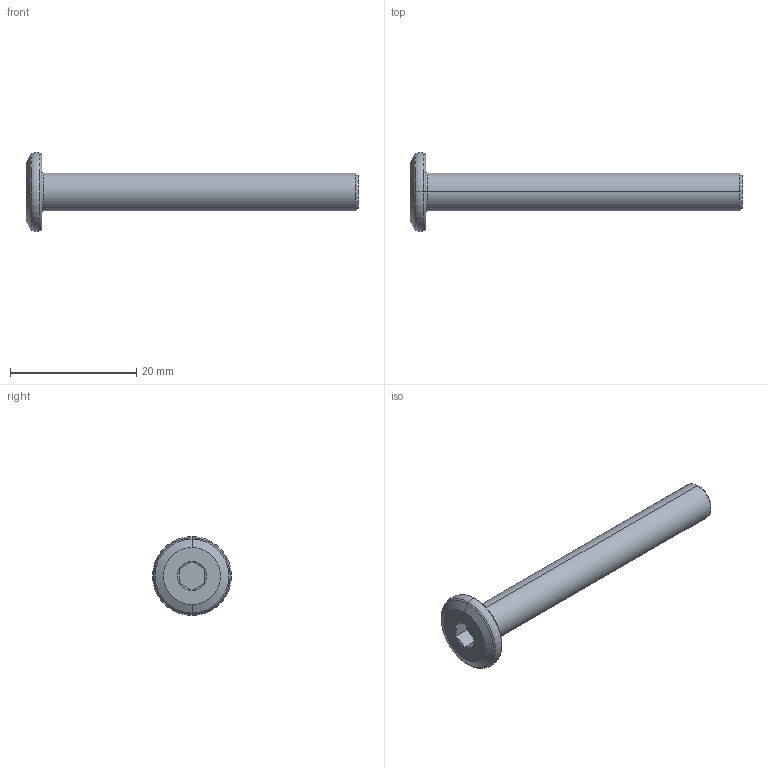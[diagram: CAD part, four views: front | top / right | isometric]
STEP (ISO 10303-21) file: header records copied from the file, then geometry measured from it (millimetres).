
FILE_DESCRIPTION (( 'STEP AP203' ), '1' );
FILE_NAME ('LGD-304D-M6x50.STEP', '2026-08-13T08:04:34', ( '' ), ( '' ), 'SwSTEP 2.0', 'SolidWorks 2020', '' );
FILE_SCHEMA (( 'CONFIG_CONTROL_DESIGN' ));
Length unit declared in the file: millimetre
Products named in the file (1): LGD-304D-M6x50
Bounding box: 52.5 x 12.49 x 12.49 mm (x, y, z)
Volume: 1651.7 mm3; surface area: 1270 mm2
Topology: 1 solids, 1 shells, 30 faces, 56 edges, 30 vertices
Faces by surface type: cone 10, plane 10, torus 8, cylinder 2
Entity records: 835 total; most frequent: CARTESIAN_POINT 151, DIRECTION 144, ORIENTED_EDGE 112, AXIS2_PLACEMENT_3D 63, EDGE_CURVE 56, EDGE_LOOP 32, CIRCLE 32, ADVANCED_FACE 30
